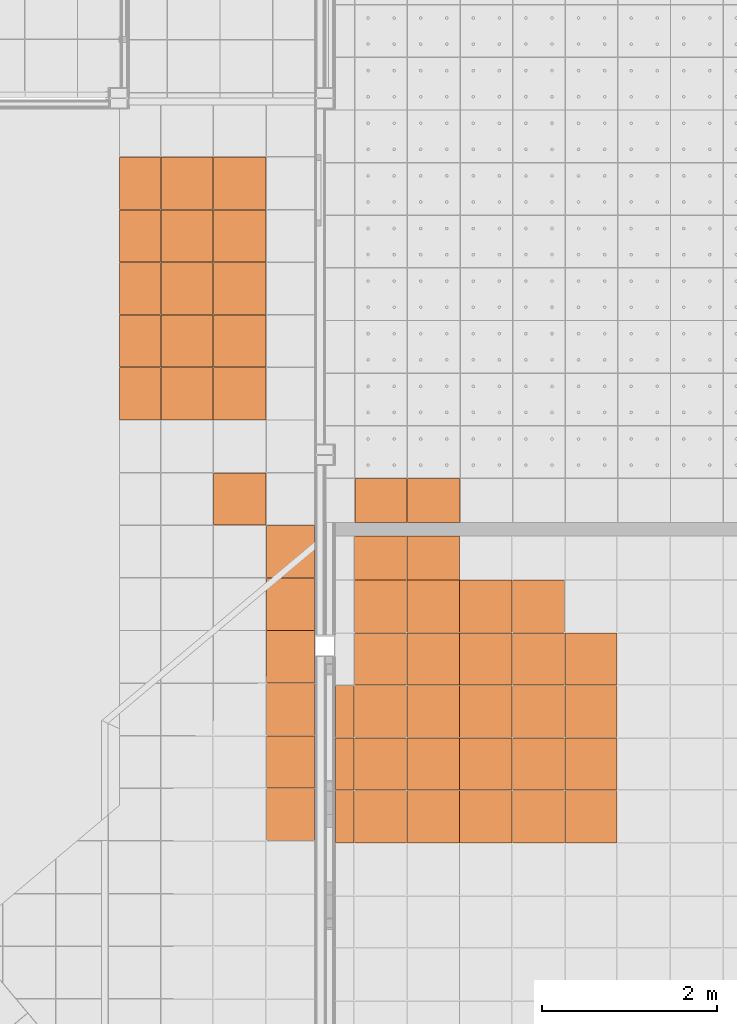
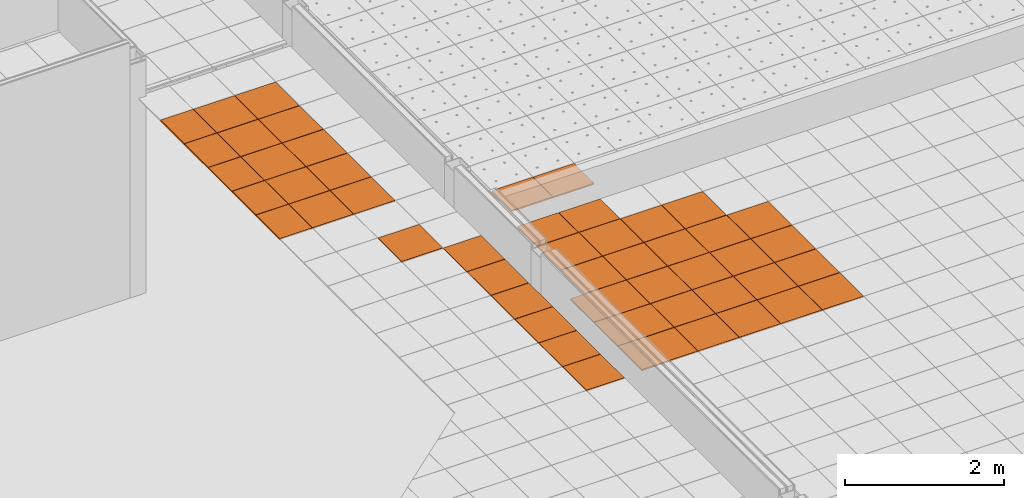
# One storey, part 218 of 338: 53 proxies, 3 elements without a shape of their own.
"""IFC2X3 building model written with IfcOpenShell, lengths in millimetres."""

from ifc_helpers import new_model, entity, si_unit, converted_unit, derived_unit, money_unit, direction, frame, origin_with_axes, place, context, subcontext, project, spatial, faceted_brep, source, transform, mapped, material, type_object, type_shapes, element, aggregate, save


model = new_model("IFC2X3")

# Units and contexts
model_context = context("Model", 3, precision=0.01, world=origin_with_axes(), true_north=direction((0.0, 1.0)))
plan_context = context("Plan", 3, precision=0.01, world=origin_with_axes(), true_north=direction((0.0, 1.0)))
body_context = subcontext(model_context, "Body", "Model", "MODEL_VIEW")
ifc_project = project(units=[si_unit("LENGTHUNIT", "METRE", prefix="MILLI"), si_unit("AREAUNIT", "SQUARE_METRE"), si_unit("VOLUMEUNIT", "CUBIC_METRE"), converted_unit("PLANEANGLEUNIT", "DEGREE", entity("IfcPlaneAngleMeasure", 0.0174532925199), si_unit("PLANEANGLEUNIT", "RADIAN"), dimensions=[0, 0, 0, 0, 0, 0, 0]), money_unit("EUR"), converted_unit("TIMEUNIT", "Year", entity("IfcTimeMeasure", 31556926.0), si_unit("TIMEUNIT", "SECOND"), dimensions=[0, 0, 1, 0, 0, 0, 0]), si_unit("MASSUNIT", "GRAM", prefix="KILO"), si_unit("THERMODYNAMICTEMPERATUREUNIT", "DEGREE_CELSIUS"), si_unit("LUMINOUSINTENSITYUNIT", "LUMEN"), si_unit("ENERGYUNIT", "JOULE", prefix="MEGA"), derived_unit("THERMALCONDUCTANCEUNIT", [(si_unit("POWERUNIT", "WATT"), 1), (si_unit("LENGTHUNIT", "METRE"), -1), (si_unit("THERMODYNAMICTEMPERATUREUNIT", "KELVIN"), -1)]), derived_unit("SPECIFICHEATCAPACITYUNIT", [(si_unit("ENERGYUNIT", "JOULE"), 1), (si_unit("MASSUNIT", "GRAM", prefix="KILO"), -1), (si_unit("THERMODYNAMICTEMPERATUREUNIT", "KELVIN"), -1)]), derived_unit("MASSDENSITYUNIT", [(si_unit("MASSUNIT", "GRAM", prefix="KILO"), 1), (si_unit("VOLUMEUNIT", "CUBIC_METRE"), -1)])], contexts=[model_context, plan_context])

# Site, building, storey
site_placement = place(None, origin_with_axes())
site = spatial("IfcSite", under=ifc_project, at=site_placement, Name="Fortuinstraat Woensdrecht", CompositionType="ELEMENT")
building_placement = place(site_placement, origin_with_axes())
building = spatial("IfcBuilding", under=site, at=building_placement, Name="IKC Fortuna", CompositionType="ELEMENT")
storey_placement = place(building_placement, origin_with_axes())
storey = spatial("IfcBuildingStorey", under=building, at=storey_placement, Name="00 begane grond", CompositionType="ELEMENT", Elevation=0.0)

# Covering, proxies
covering_type = type_object("IfcCoveringType", Name="Curtain Wall Type", PredefinedType="CEILING")
covering_1_placement = place(storey_placement, frame((34484.9342671, 3789.29664615, 3065.0), z_axis=(0.0, 0.0, 1.0), x_axis=(1.0, 0.0, 0.0)))
covering_1 = element("IfcCovering", 1, at=covering_1_placement, inside=storey, type_object=covering_type, Name="45_Plafondafwerking_P02 gec", PredefinedType="CEILING")
ifc_material = material(Name="Gipsplaat")
building_element_proxy_type_1 = type_object("IfcBuildingElementProxyType", Name="Distinct Panel 600 x 600 x 20", PredefinedType="NOTDEFINED")
shared_shape_1 = source(origin_with_axes(), body_context, "Body", "Brep", [
    faceted_brep([(-2.49999999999, 2.5, -10.0), (-2.49999999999, 2.5, 10.0), (-597.5, 2.49999999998, 10.0), (-597.5, 2.49999999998, -10.0), (-2.50000000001, 597.5, -10.0), (-2.50000000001, 597.5, 10.0), (-597.5, 597.5, 10.0), (-597.5, 597.5, -10.0)], [[[0, 1, 2, 3]], [[4, 5, 1, 0]], [[1, 5, 6, 2]], [[3, 2, 6, 7]], [[0, 3, 7, 4]], [[7, 6, 5, 4]]]),
])
proxy_1_placement = place(covering_1_placement, frame((-5834.49272604, 5999.99997773, 0.0), z_axis=(0.0, 0.0, 1.0), x_axis=(1.0, 0.0, 0.0)))
proxy_1 = element("IfcBuildingElementProxy", 2, at=proxy_1_placement, type_object=building_element_proxy_type_1, material=ifc_material, Name="__Panel-D", context=body_context, shape_type="MappedRepresentation", body=[
    mapped(shared_shape_1, transform((-300.0, 300.0, 0.0), x_axis=(-1.0, 0.0, 0.0), y_axis=(0.0, -1.0, 0.0), z_axis=(0.0, 0.0, 1.0))),
])
proxy_2_placement = place(covering_1_placement, frame((-8234.49272604, 6599.99997773, 0.0), z_axis=(0.0, 0.0, 1.0), x_axis=(1.0, 0.0, 0.0)))
proxy_2 = element("IfcBuildingElementProxy", 3, at=proxy_2_placement, type_object=building_element_proxy_type_1, material=ifc_material, Name="__Panel-D", context=body_context, shape_type="MappedRepresentation", body=[
    mapped(shared_shape_1, transform((-300.0, 300.0, 0.0), x_axis=(-1.0, 0.0, 0.0), y_axis=(0.0, -1.0, 0.0), z_axis=(0.0, 0.0, 1.0))),
])
proxy_3_placement = place(covering_1_placement, frame((-7634.49272604, 6599.99997773, 0.0), z_axis=(0.0, 0.0, 1.0), x_axis=(1.0, 0.0, 0.0)))
proxy_3 = element("IfcBuildingElementProxy", 4, at=proxy_3_placement, type_object=building_element_proxy_type_1, material=ifc_material, Name="__Panel-D", context=body_context, shape_type="MappedRepresentation", body=[
    mapped(shared_shape_1, transform((-300.0, 300.0, 0.0), x_axis=(-1.0, 0.0, 0.0), y_axis=(0.0, -1.0, 0.0), z_axis=(0.0, 0.0, 1.0))),
])
proxy_4_placement = place(covering_1_placement, frame((-7034.49272604, 6599.99997773, 0.0), z_axis=(0.0, 0.0, 1.0), x_axis=(1.0, 0.0, 0.0)))
proxy_4 = element("IfcBuildingElementProxy", 5, at=proxy_4_placement, type_object=building_element_proxy_type_1, material=ifc_material, Name="__Panel-D", context=body_context, shape_type="MappedRepresentation", body=[
    mapped(shared_shape_1, transform((-300.0, 300.0, 0.0), x_axis=(-1.0, 0.0, 0.0), y_axis=(0.0, -1.0, 0.0), z_axis=(0.0, 0.0, 1.0))),
])
proxy_5_placement = place(covering_1_placement, frame((-6434.49272604, 6599.99997773, 0.0), z_axis=(0.0, 0.0, 1.0), x_axis=(1.0, 0.0, 0.0)))
proxy_5 = element("IfcBuildingElementProxy", 6, at=proxy_5_placement, type_object=building_element_proxy_type_1, material=ifc_material, Name="__Panel-D", context=body_context, shape_type="MappedRepresentation", body=[
    mapped(shared_shape_1, transform((-300.0, 300.0, 0.0), x_axis=(-1.0, 0.0, 0.0), y_axis=(0.0, -1.0, 0.0), z_axis=(0.0, 0.0, 1.0))),
])
proxy_6_placement = place(covering_1_placement, frame((-7034.49272604, 5999.99997773, 0.0), z_axis=(0.0, 0.0, 1.0), x_axis=(1.0, 0.0, 0.0)))
proxy_6 = element("IfcBuildingElementProxy", 7, at=proxy_6_placement, type_object=building_element_proxy_type_1, material=ifc_material, Name="__Panel-D", context=body_context, shape_type="MappedRepresentation", body=[
    mapped(shared_shape_1, transform((-300.0, 300.0, 0.0), x_axis=(-1.0, 0.0, 0.0), y_axis=(0.0, -1.0, 0.0), z_axis=(0.0, 0.0, 1.0))),
])
proxy_7_placement = place(covering_1_placement, frame((-7634.49272604, 5999.99997773, 0.0), z_axis=(0.0, 0.0, 1.0), x_axis=(1.0, 0.0, 0.0)))
proxy_7 = element("IfcBuildingElementProxy", 8, at=proxy_7_placement, type_object=building_element_proxy_type_1, material=ifc_material, Name="__Panel-D", context=body_context, shape_type="MappedRepresentation", body=[
    mapped(shared_shape_1, transform((-300.0, 300.0, 0.0), x_axis=(-1.0, 0.0, 0.0), y_axis=(0.0, -1.0, 0.0), z_axis=(0.0, 0.0, 1.0))),
])
proxy_8_placement = place(covering_1_placement, frame((-8234.49272604, 5999.99997773, 0.0), z_axis=(0.0, 0.0, 1.0), x_axis=(1.0, 0.0, 0.0)))
proxy_8 = element("IfcBuildingElementProxy", 9, at=proxy_8_placement, type_object=building_element_proxy_type_1, material=ifc_material, Name="__Panel-D", context=body_context, shape_type="MappedRepresentation", body=[
    mapped(shared_shape_1, transform((-300.0, 300.0, 0.0), x_axis=(-1.0, 0.0, 0.0), y_axis=(0.0, -1.0, 0.0), z_axis=(0.0, 0.0, 1.0))),
])
proxy_9_placement = place(covering_1_placement, frame((-8234.49272604, 5399.99998887, 0.0), z_axis=(0.0, 0.0, 1.0), x_axis=(1.0, 0.0, 0.0)))
proxy_9 = element("IfcBuildingElementProxy", 10, at=proxy_9_placement, type_object=building_element_proxy_type_1, material=ifc_material, Name="__Panel-D", context=body_context, shape_type="MappedRepresentation", body=[
    mapped(shared_shape_1, transform((-300.0, 299.999988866, 0.0), x_axis=(-1.0, 0.0, 0.0), y_axis=(0.0, -1.0, 0.0), z_axis=(0.0, 0.0, 1.0))),
])
proxy_10_placement = place(covering_1_placement, frame((-7634.49272604, 5399.99998887, 0.0), z_axis=(0.0, 0.0, 1.0), x_axis=(1.0, 0.0, 0.0)))
proxy_10 = element("IfcBuildingElementProxy", 11, at=proxy_10_placement, type_object=building_element_proxy_type_1, material=ifc_material, Name="__Panel-D", context=body_context, shape_type="MappedRepresentation", body=[
    mapped(shared_shape_1, transform((-300.0, 299.999988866, 0.0), x_axis=(-1.0, 0.0, 0.0), y_axis=(0.0, -1.0, 0.0), z_axis=(0.0, 0.0, 1.0))),
])
proxy_11_placement = place(covering_1_placement, frame((-7034.49272604, 5399.99998887, 0.0), z_axis=(0.0, 0.0, 1.0), x_axis=(1.0, 0.0, 0.0)))
proxy_11 = element("IfcBuildingElementProxy", 12, at=proxy_11_placement, type_object=building_element_proxy_type_1, material=ifc_material, Name="__Panel-D", context=body_context, shape_type="MappedRepresentation", body=[
    mapped(shared_shape_1, transform((-300.0, 299.999988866, 0.0), x_axis=(-1.0, 0.0, 0.0), y_axis=(0.0, -1.0, 0.0), z_axis=(0.0, 0.0, 1.0))),
])
proxy_12_placement = place(covering_1_placement, frame((-6434.49272604, 5399.99998887, 0.0), z_axis=(0.0, 0.0, 1.0), x_axis=(1.0, 0.0, 0.0)))
proxy_12 = element("IfcBuildingElementProxy", 13, at=proxy_12_placement, type_object=building_element_proxy_type_1, material=ifc_material, Name="__Panel-D", context=body_context, shape_type="MappedRepresentation", body=[
    mapped(shared_shape_1, transform((-300.0, 299.999988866, 0.0), x_axis=(-1.0, 0.0, 0.0), y_axis=(0.0, -1.0, 0.0), z_axis=(0.0, 0.0, 1.0))),
])
proxy_13_placement = place(covering_1_placement, frame((-5834.49272604, 5399.99998887, 0.0), z_axis=(0.0, 0.0, 1.0), x_axis=(1.0, 0.0, 0.0)))
proxy_13 = element("IfcBuildingElementProxy", 14, at=proxy_13_placement, type_object=building_element_proxy_type_1, material=ifc_material, Name="__Panel-D", context=body_context, shape_type="MappedRepresentation", body=[
    mapped(shared_shape_1, transform((-300.0, 299.999988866, 0.0), x_axis=(-1.0, 0.0, 0.0), y_axis=(0.0, -1.0, 0.0), z_axis=(0.0, 0.0, 1.0))),
])
proxy_14_placement = place(covering_1_placement, frame((-5834.49272604, 4800.0, 0.0), z_axis=(0.0, 0.0, 1.0), x_axis=(1.0, 0.0, 0.0)))
proxy_14 = element("IfcBuildingElementProxy", 15, at=proxy_14_placement, type_object=building_element_proxy_type_1, material=ifc_material, Name="__Panel-D", context=body_context, shape_type="MappedRepresentation", body=[
    mapped(shared_shape_1, transform((-300.0, 300.0, 0.0), x_axis=(-1.0, 0.0, 0.0), y_axis=(0.0, -1.0, 0.0), z_axis=(0.0, 0.0, 1.0))),
])
proxy_15_placement = place(covering_1_placement, frame((-6434.49272604, 4800.0, 0.0), z_axis=(0.0, 0.0, 1.0), x_axis=(1.0, 0.0, 0.0)))
proxy_15 = element("IfcBuildingElementProxy", 16, at=proxy_15_placement, type_object=building_element_proxy_type_1, material=ifc_material, Name="__Panel-D", context=body_context, shape_type="MappedRepresentation", body=[
    mapped(shared_shape_1, transform((-300.0, 300.0, 0.0), x_axis=(-1.0, 0.0, 0.0), y_axis=(0.0, -1.0, 0.0), z_axis=(0.0, 0.0, 1.0))),
])
proxy_16_placement = place(covering_1_placement, frame((-7034.49272604, 4800.0, 0.0), z_axis=(0.0, 0.0, 1.0), x_axis=(1.0, 0.0, 0.0)))
proxy_16 = element("IfcBuildingElementProxy", 17, at=proxy_16_placement, type_object=building_element_proxy_type_1, material=ifc_material, Name="__Panel-D", context=body_context, shape_type="MappedRepresentation", body=[
    mapped(shared_shape_1, transform((-300.0, 300.0, 0.0), x_axis=(-1.0, 0.0, 0.0), y_axis=(0.0, -1.0, 0.0), z_axis=(0.0, 0.0, 1.0))),
])
proxy_17_placement = place(covering_1_placement, frame((-7634.49272604, 4800.0, 0.0), z_axis=(0.0, 0.0, 1.0), x_axis=(1.0, 0.0, 0.0)))
proxy_17 = element("IfcBuildingElementProxy", 18, at=proxy_17_placement, type_object=building_element_proxy_type_1, material=ifc_material, Name="__Panel-D", context=body_context, shape_type="MappedRepresentation", body=[
    mapped(shared_shape_1, transform((-300.0, 300.0, 0.0), x_axis=(-1.0, 0.0, 0.0), y_axis=(0.0, -1.0, 0.0), z_axis=(0.0, 0.0, 1.0))),
])
proxy_18_placement = place(covering_1_placement, frame((-8234.49272604, 4800.0, 0.0), z_axis=(0.0, 0.0, 1.0), x_axis=(1.0, 0.0, 0.0)))
proxy_18 = element("IfcBuildingElementProxy", 19, at=proxy_18_placement, type_object=building_element_proxy_type_1, material=ifc_material, Name="__Panel-D", context=body_context, shape_type="MappedRepresentation", body=[
    mapped(shared_shape_1, transform((-300.0, 300.0, 0.0), x_axis=(-1.0, 0.0, 0.0), y_axis=(0.0, -1.0, 0.0), z_axis=(0.0, 0.0, 1.0))),
])
proxy_19_placement = place(covering_1_placement, frame((-8234.49272604, 4200.0, 0.0), z_axis=(0.0, 0.0, 1.0), x_axis=(1.0, 0.0, 0.0)))
proxy_19 = element("IfcBuildingElementProxy", 20, at=proxy_19_placement, type_object=building_element_proxy_type_1, material=ifc_material, Name="__Panel-D", context=body_context, shape_type="MappedRepresentation", body=[
    mapped(shared_shape_1, transform((-300.0, 300.0, 0.0), x_axis=(-1.0, 0.0, 0.0), y_axis=(0.0, -1.0, 0.0), z_axis=(0.0, 0.0, 1.0))),
])
proxy_20_placement = place(covering_1_placement, frame((-7634.49272604, 4200.0, 0.0), z_axis=(0.0, 0.0, 1.0), x_axis=(1.0, 0.0, 0.0)))
proxy_20 = element("IfcBuildingElementProxy", 21, at=proxy_20_placement, type_object=building_element_proxy_type_1, material=ifc_material, Name="__Panel-D", context=body_context, shape_type="MappedRepresentation", body=[
    mapped(shared_shape_1, transform((-300.0, 300.0, 0.0), x_axis=(-1.0, 0.0, 0.0), y_axis=(0.0, -1.0, 0.0), z_axis=(0.0, 0.0, 1.0))),
])
proxy_21_placement = place(covering_1_placement, frame((-7034.49272604, 4200.0, 0.0), z_axis=(0.0, 0.0, 1.0), x_axis=(1.0, 0.0, 0.0)))
proxy_21 = element("IfcBuildingElementProxy", 22, at=proxy_21_placement, type_object=building_element_proxy_type_1, material=ifc_material, Name="__Panel-D", context=body_context, shape_type="MappedRepresentation", body=[
    mapped(shared_shape_1, transform((-300.0, 300.0, 0.0), x_axis=(-1.0, 0.0, 0.0), y_axis=(0.0, -1.0, 0.0), z_axis=(0.0, 0.0, 1.0))),
])
proxy_22_placement = place(covering_1_placement, frame((-6434.49272604, 4200.0, 0.0), z_axis=(0.0, 0.0, 1.0), x_axis=(1.0, 0.0, 0.0)))
proxy_22 = element("IfcBuildingElementProxy", 23, at=proxy_22_placement, type_object=building_element_proxy_type_1, material=ifc_material, Name="__Panel-D", context=body_context, shape_type="MappedRepresentation", body=[
    mapped(shared_shape_1, transform((-300.0, 300.0, 0.0), x_axis=(-1.0, 0.0, 0.0), y_axis=(0.0, -1.0, 0.0), z_axis=(0.0, 0.0, 1.0))),
])
proxy_23_placement = place(covering_1_placement, frame((-5834.49272604, 4200.0, 0.0), z_axis=(0.0, 0.0, 1.0), x_axis=(1.0, 0.0, 0.0)))
proxy_23 = element("IfcBuildingElementProxy", 24, at=proxy_23_placement, type_object=building_element_proxy_type_1, material=ifc_material, Name="__Panel-D", context=body_context, shape_type="MappedRepresentation", body=[
    mapped(shared_shape_1, transform((-300.0, 300.0, 0.0), x_axis=(-1.0, 0.0, 0.0), y_axis=(0.0, -1.0, 0.0), z_axis=(0.0, 0.0, 1.0))),
])

covering_2_placement = place(storey_placement, frame((23508.1808374, 14013.4616156, 3010.0), z_axis=(0.0, 0.0, 1.0), x_axis=(1.0, 0.0, 0.0)))
covering_2 = element("IfcCovering", 25, at=covering_2_placement, inside=storey, type_object=covering_type, Name="45_Plafondafwerking_P04", PredefinedType="CEILING")
proxy_24_placement = place(covering_2_placement, frame((1136.74576449, 1200.0, 1.03916875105e-10), z_axis=(0.0, 0.0, 1.0), x_axis=(1.0, 0.0, 0.0)))
proxy_24 = element("IfcBuildingElementProxy", 26, at=proxy_24_placement, type_object=building_element_proxy_type_1, material=ifc_material, Name="__Panel-D", context=body_context, shape_type="MappedRepresentation", body=[
    mapped(shared_shape_1, transform((-300.0, 300.0, 0.0), x_axis=(-1.0, 0.0, 0.0), y_axis=(0.0, -1.0, 0.0), z_axis=(0.0, 0.0, 1.0))),
])
proxy_25_placement = place(covering_2_placement, frame((536.745764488, 0.0, 0.0), z_axis=(0.0, 0.0, 1.0), x_axis=(1.0, 0.0, 0.0)))
proxy_25 = element("IfcBuildingElementProxy", 27, at=proxy_25_placement, type_object=building_element_proxy_type_1, material=ifc_material, Name="__Panel-D", context=body_context, shape_type="MappedRepresentation", body=[
    mapped(shared_shape_1, transform((-300.0, 300.0, 0.0), x_axis=(-1.0, 0.0, 0.0), y_axis=(0.0, -1.0, 0.0), z_axis=(0.0, 0.0, 1.0))),
])
proxy_26_placement = place(covering_2_placement, frame((1136.74576449, -600.0, 1.03916875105e-10), z_axis=(0.0, 0.0, 1.0), x_axis=(1.0, 0.0, 0.0)))
proxy_26 = element("IfcBuildingElementProxy", 28, at=proxy_26_placement, type_object=building_element_proxy_type_1, material=ifc_material, Name="__Panel-D", context=body_context, shape_type="MappedRepresentation", body=[
    mapped(shared_shape_1, transform((-300.0, 300.0, 0.0), x_axis=(-1.0, 0.0, 0.0), y_axis=(0.0, -1.0, 0.0), z_axis=(0.0, 0.0, 1.0))),
])
proxy_27_placement = place(covering_2_placement, frame((1136.74576449, 600.0, 1.03916875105e-10), z_axis=(0.0, 0.0, 1.0), x_axis=(1.0, 0.0, 0.0)))
proxy_27 = element("IfcBuildingElementProxy", 29, at=proxy_27_placement, type_object=building_element_proxy_type_1, material=ifc_material, Name="__Panel-D", context=body_context, shape_type="MappedRepresentation", body=[
    mapped(shared_shape_1, transform((-300.0, 300.0, 0.0), x_axis=(-1.0, 0.0, 0.0), y_axis=(0.0, -1.0, 0.0), z_axis=(0.0, 0.0, 1.0))),
])
proxy_28_placement = place(covering_2_placement, frame((536.745764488, -1200.0, 0.0), z_axis=(0.0, 0.0, 1.0), x_axis=(1.0, 0.0, 0.0)))
proxy_28 = element("IfcBuildingElementProxy", 30, at=proxy_28_placement, type_object=building_element_proxy_type_1, material=ifc_material, Name="__Panel-D", context=body_context, shape_type="MappedRepresentation", body=[
    mapped(shared_shape_1, transform((-300.0, 300.0, 0.0), x_axis=(-1.0, 0.0, 0.0), y_axis=(0.0, -1.0, 0.0), z_axis=(0.0, 0.0, 1.0))),
])
proxy_29_placement = place(covering_2_placement, frame((1136.74576449, 0.0, 1.03916875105e-10), z_axis=(0.0, 0.0, 1.0), x_axis=(1.0, 0.0, 0.0)))
proxy_29 = element("IfcBuildingElementProxy", 31, at=proxy_29_placement, type_object=building_element_proxy_type_1, material=ifc_material, Name="__Panel-D", context=body_context, shape_type="MappedRepresentation", body=[
    mapped(shared_shape_1, transform((-300.0, 300.0, 0.0), x_axis=(-1.0, 0.0, 0.0), y_axis=(0.0, -1.0, 0.0), z_axis=(0.0, 0.0, 1.0))),
])
proxy_30_placement = place(covering_2_placement, frame((536.745764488, 1200.0, 0.0), z_axis=(0.0, 0.0, 1.0), x_axis=(1.0, 0.0, 0.0)))
proxy_30 = element("IfcBuildingElementProxy", 32, at=proxy_30_placement, type_object=building_element_proxy_type_1, material=ifc_material, Name="__Panel-D", context=body_context, shape_type="MappedRepresentation", body=[
    mapped(shared_shape_1, transform((-300.0, 300.0, 0.0), x_axis=(-1.0, 0.0, 0.0), y_axis=(0.0, -1.0, 0.0), z_axis=(0.0, 0.0, 1.0))),
])
proxy_31_placement = place(covering_2_placement, frame((1136.74576449, -2400.0, 1.03916875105e-10), z_axis=(0.0, 0.0, 1.0), x_axis=(1.0, 0.0, 0.0)))
proxy_31 = element("IfcBuildingElementProxy", 33, at=proxy_31_placement, type_object=building_element_proxy_type_1, material=ifc_material, Name="__Panel-D", context=body_context, shape_type="MappedRepresentation", body=[
    mapped(shared_shape_1, transform((-300.0, 300.0, 0.0), x_axis=(-1.0, 0.0, 0.0), y_axis=(0.0, -1.0, 0.0), z_axis=(0.0, 0.0, 1.0))),
])
shared_shape_2 = source(origin_with_axes(), body_context, "Body", "Brep", [
    faceted_brep([(-2.50000188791, 2.50000518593, -10.0), (-2.50000188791, 2.50000518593, 10.0), (-597.499994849, 2.50000192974, 10.0), (-597.499994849, 2.50000192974, -10.0), (-2.50000514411, 597.499998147, -10.0), (-2.50000514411, 597.499998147, 10.0), (-597.499998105, 597.499994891, 10.0), (-597.499998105, 597.499994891, -10.0)], [[[0, 1, 2, 3]], [[4, 5, 1, 0]], [[1, 5, 6, 2]], [[3, 2, 6, 7]], [[0, 3, 7, 4]], [[7, 6, 5, 4]]]),
])
proxy_32_placement = place(covering_2_placement, frame((536.745764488, -600.0, 0.0), z_axis=(0.0, 0.0, 1.0), x_axis=(1.0, 0.0, 0.0)))
proxy_32 = element("IfcBuildingElementProxy", 34, at=proxy_32_placement, type_object=building_element_proxy_type_1, material=ifc_material, Name="__Panel-D", context=body_context, shape_type="MappedRepresentation", body=[
    mapped(shared_shape_2, transform((-300.0, 300.0, 0.0), x_axis=(-1.0, 0.0, 0.0), y_axis=(0.0, -1.0, 0.0), z_axis=(0.0, 0.0, 1.0))),
])
proxy_33_placement = place(covering_2_placement, frame((536.745764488, 600.0, 0.0), z_axis=(0.0, 0.0, 1.0), x_axis=(1.0, 0.0, 0.0)))
proxy_33 = element("IfcBuildingElementProxy", 35, at=proxy_33_placement, type_object=building_element_proxy_type_1, material=ifc_material, Name="__Panel-D", context=body_context, shape_type="MappedRepresentation", body=[
    mapped(shared_shape_2, transform((-300.0, 300.0, 0.0), x_axis=(-1.0, 0.0, 0.0), y_axis=(0.0, -1.0, 0.0), z_axis=(0.0, 0.0, 1.0))),
])

# Proxy
shared_shape_3 = source(origin_with_axes(), body_context, "Body", "Brep", [
    faceted_brep([(-2.5000069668, 2.4999963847, -10.0), (-2.5000069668, 2.4999963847, 10.0), (-597.499995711, 2.50000275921, 10.0), (-597.499995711, 2.50000275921, -10.0), (-2.50000214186, 597.499967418, -10.0), (-2.50000214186, 597.499967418, 10.0), (-597.499990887, 597.499973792, 10.0), (-597.499990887, 597.499973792, -10.0)], [[[0, 1, 2, 3]], [[4, 5, 1, 0]], [[1, 5, 6, 2]], [[3, 2, 6, 7]], [[0, 3, 7, 4]], [[7, 6, 5, 4]]]),
])
type_shapes(building_element_proxy_type_1, [shared_shape_1, shared_shape_2, shared_shape_3])
proxy_34_placement = place(covering_1_placement, frame((-6434.49272604, 5999.99997773, 0.0), z_axis=(0.0, 0.0, 1.0), x_axis=(1.0, 0.0, 0.0)))
proxy_34 = element("IfcBuildingElementProxy", 36, at=proxy_34_placement, type_object=building_element_proxy_type_1, material=ifc_material, Name="__Panel-D", context=body_context, shape_type="MappedRepresentation", body=[
    mapped(shared_shape_3, transform((-300.0, 300.0, 0.0), x_axis=(-1.0, 0.0, 0.0), y_axis=(0.0, -1.0, 0.0), z_axis=(0.0, 0.0, 1.0))),
])

proxy_35_placement = place(covering_2_placement, frame((1136.74576449, -1200.0, 1.03916875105e-10), z_axis=(0.0, 0.0, 1.0), x_axis=(1.0, 0.0, 0.0)))
proxy_35 = element("IfcBuildingElementProxy", 37, at=proxy_35_placement, type_object=building_element_proxy_type_1, material=ifc_material, Name="__Panel-D", context=body_context, shape_type="MappedRepresentation", body=[
    mapped(shared_shape_3, transform((-300.0, 300.0, 0.0), x_axis=(-1.0, 0.0, 0.0), y_axis=(0.0, -1.0, 0.0), z_axis=(0.0, 0.0, 1.0))),
])

building_element_proxy_type_2 = type_object("IfcBuildingElementProxyType", Name="Distinct Panel 218 x 600 x 20", PredefinedType="NOTDEFINED")
shared_shape_4 = source(origin_with_axes(), body_context, "Body", "Brep", [
    faceted_brep([(-384.993473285, 2.5, -10.0), (-384.993473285, 2.5, 10.0), (-597.5, 2.49999999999, 10.0), (-597.5, 2.49999999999, -10.0), (-384.993473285, 597.5, -10.0), (-384.993473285, 597.5, 10.0), (-597.5, 597.5, 10.0), (-597.5, 597.5, -10.0)], [[[0, 1, 2, 3]], [[4, 5, 1, 0]], [[1, 5, 6, 2]], [[3, 2, 6, 7]], [[0, 3, 7, 4]], [[7, 6, 5, 4]]]),
])
type_shapes(building_element_proxy_type_2, [shared_shape_4])
proxy_36_placement = place(covering_1_placement, frame((-8643.24598723, 4200.0, 0.0), z_axis=(0.0, 0.0, 1.0), x_axis=(1.0, 0.0, 0.0)))
proxy_36 = element("IfcBuildingElementProxy", 38, at=proxy_36_placement, type_object=building_element_proxy_type_2, material=ifc_material, Name="__Panel-D", context=body_context, shape_type="MappedRepresentation", body=[
    mapped(shared_shape_4, transform((-491.246738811, 300.0, 0.0), x_axis=(-1.0, 0.0, 0.0), y_axis=(0.0, -1.0, 0.0), z_axis=(0.0, 0.0, 1.0))),
])

proxy_37_placement = place(covering_1_placement, frame((-8643.24598723, 4800.0, 0.0), z_axis=(0.0, 0.0, 1.0), x_axis=(1.0, 0.0, 0.0)))
proxy_37 = element("IfcBuildingElementProxy", 39, at=proxy_37_placement, type_object=building_element_proxy_type_2, material=ifc_material, Name="__Panel-D", context=body_context, shape_type="MappedRepresentation", body=[
    mapped(shared_shape_4, transform((-491.246738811, 300.0, 0.0), x_axis=(-1.0, 0.0, 0.0), y_axis=(0.0, -1.0, 0.0), z_axis=(0.0, 0.0, 1.0))),
])

proxy_38_placement = place(covering_1_placement, frame((-8643.24598723, 5399.99998887, 0.0), z_axis=(0.0, 0.0, 1.0), x_axis=(1.0, 0.0, 0.0)))
proxy_38 = element("IfcBuildingElementProxy", 40, at=proxy_38_placement, type_object=building_element_proxy_type_2, material=ifc_material, Name="__Panel-D", context=body_context, shape_type="MappedRepresentation", body=[
    mapped(shared_shape_4, transform((-491.246738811, 299.999988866, 0.0), x_axis=(-1.0, 0.0, 0.0), y_axis=(0.0, -1.0, 0.0), z_axis=(0.0, 0.0, 1.0))),
])

building_element_proxy_type_3 = type_object("IfcBuildingElementProxyType", Name="Distinct Panel 600 x 503 x 20", PredefinedType="NOTDEFINED")
shared_shape_5 = source(origin_with_axes(), body_context, "Body", "Brep", [
    faceted_brep([(-2.49999999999, 99.4999854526, -10.0), (-2.49999999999, 99.4999854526, 10.0), (-597.5, 99.4999854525, 10.0), (-597.5, 99.4999854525, -10.0), (-2.50000000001, 597.500003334, -10.0), (-2.50000000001, 597.500003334, 10.0), (-597.5, 597.500003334, 10.0), (-597.5, 597.500003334, -10.0)], [[[0, 1, 2, 3]], [[4, 5, 1, 0]], [[1, 5, 6, 2]], [[3, 2, 6, 7]], [[0, 3, 7, 4]], [[7, 6, 5, 4]]]),
])
type_shapes(building_element_proxy_type_3, [shared_shape_5])
proxy_39_placement = place(covering_1_placement, frame((-8234.49272604, 7151.49999599, 0.0), z_axis=(0.0, 0.0, 1.0), x_axis=(1.0, 0.0, 0.0)))
proxy_39 = element("IfcBuildingElementProxy", 41, at=proxy_39_placement, type_object=building_element_proxy_type_3, material=ifc_material, Name="__Panel-D", context=body_context, shape_type="MappedRepresentation", body=[
    mapped(shared_shape_5, transform((-300.0, 348.500004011, 0.0), x_axis=(-1.0, 0.0, 0.0), y_axis=(0.0, -1.0, 0.0), z_axis=(0.0, 0.0, 1.0))),
])

proxy_40_placement = place(covering_1_placement, frame((-7634.49272604, 7151.49999599, 0.0), z_axis=(0.0, 0.0, 1.0), x_axis=(1.0, 0.0, 0.0)))
proxy_40 = element("IfcBuildingElementProxy", 42, at=proxy_40_placement, type_object=building_element_proxy_type_3, material=ifc_material, Name="__Panel-D", context=body_context, shape_type="MappedRepresentation", body=[
    mapped(shared_shape_5, transform((-300.0, 348.500004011, 0.0), x_axis=(-1.0, 0.0, 0.0), y_axis=(0.0, -1.0, 0.0), z_axis=(0.0, 0.0, 1.0))),
])

aggregate(covering_1, [proxy_1, proxy_2, proxy_3, proxy_4, proxy_5, proxy_34, proxy_6, proxy_7, proxy_8, proxy_9, proxy_10, proxy_11, proxy_12, proxy_13, proxy_14, proxy_15, proxy_16, proxy_17, proxy_18, proxy_19, proxy_20, proxy_21, proxy_22, proxy_23, proxy_36, proxy_37, proxy_38, proxy_39, proxy_40])

# Covering, proxies
covering_3_placement = place(storey_placement, frame((31656.9226967, 15748.5304598, 3210.0), z_axis=(0.0, 0.0, 1.0), x_axis=(1.0, 0.0, 0.0)))
covering_3 = element("IfcCovering", 43, at=covering_3_placement, inside=storey, type_object=covering_type, Name="45_Plafondafwerking_P01", PredefinedType="CEILING")
building_element_proxy_type_4 = type_object("IfcBuildingElementProxyType", Name="600 x 506 x 20", PredefinedType="NOTDEFINED")
shared_shape_6 = source(origin_with_axes(), body_context, "Body", "Brep", [
    faceted_brep([(2.49999999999, 2.49999996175, -10.0), (597.5, 2.49999996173, -10.0), (597.5, 2.49999996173, 10.0), (2.49999999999, 2.49999996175, 10.0), (2.50000000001, 503.733772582, -10.0), (597.5, 503.733772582, -10.0), (597.5, 503.733772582, 10.0), (2.50000000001, 503.733772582, 10.0)], [[[0, 1, 2, 3]], [[0, 4, 5, 1]], [[1, 5, 6, 2]], [[3, 2, 6, 7]], [[4, 0, 3, 7]], [[5, 4, 7, 6]]]),
])
type_shapes(building_element_proxy_type_4, [shared_shape_6])
proxy_41_placement = place(covering_3_placement, frame((-4800.0, -4153.11687963, 2.53574938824e-10), z_axis=(0.0, 0.0, 1.0), x_axis=(1.0, 0.0, 0.0)))
proxy_41 = element("IfcBuildingElementProxy", 44, at=proxy_41_placement, type_object=building_element_proxy_type_4, material=ifc_material, Name="__600x661 Rockfon Krios", context=body_context, shape_type="MappedRepresentation", body=[
    mapped(shared_shape_6, transform((300.0, 253.116879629, 0.0), x_axis=(-1.0, 0.0, 0.0), y_axis=(0.0, -1.0, 0.0), z_axis=(0.0, 0.0, 1.0))),
])
proxy_42_placement = place(covering_3_placement, frame((-5400.0, -4153.11687963, 2.73114864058e-10), z_axis=(0.0, 0.0, 1.0), x_axis=(1.0, 0.0, 0.0)))
proxy_42 = element("IfcBuildingElementProxy", 45, at=proxy_42_placement, type_object=building_element_proxy_type_4, material=ifc_material, Name="__600x722 Rockfon Krios", context=body_context, shape_type="MappedRepresentation", body=[
    mapped(shared_shape_6, transform((300.0, 253.116879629, 0.0), x_axis=(-1.0, 0.0, 0.0), y_axis=(0.0, -1.0, 0.0), z_axis=(0.0, 0.0, 1.0))),
])
aggregate(covering_3, [proxy_41, proxy_42])

# Proxy
building_element_proxy_type_5 = type_object("IfcBuildingElementProxyType", Name="Distinct Panel 473 x 600 x 20", PredefinedType="NOTDEFINED")
shared_shape_7 = source(origin_with_axes(), body_context, "Body", "Brep", [
    faceted_brep([(-129.008466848, 2.5, -10.0), (-129.008466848, 2.5, 10.0), (-597.5, 2.49999999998, 10.0), (-597.5, 2.49999999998, -10.0), (-129.008466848, 597.5, -10.0), (-129.008466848, 597.5, 10.0), (-597.5, 597.5, 10.0), (-597.5, 597.5, -10.0)], [[[0, 1, 2, 3]], [[4, 5, 1, 0]], [[1, 5, 6, 2]], [[3, 2, 6, 7]], [[0, 3, 7, 4]], [[7, 6, 5, 4]]]),
])
proxy_43_placement = place(covering_2_placement, origin_with_axes())
proxy_43 = element("IfcBuildingElementProxy", 46, at=proxy_43_placement, type_object=building_element_proxy_type_5, material=ifc_material, Name="__Panel-D", context=body_context, shape_type="MappedRepresentation", body=[
    mapped(shared_shape_7, transform((-363.254235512, 300.0, 0.0), x_axis=(-1.0, 0.0, 0.0), y_axis=(0.0, -1.0, 0.0), z_axis=(0.0, 0.0, 1.0))),
])

proxy_44_placement = place(covering_2_placement, frame((0.0, 600.0, 0.0), z_axis=(0.0, 0.0, 1.0), x_axis=(1.0, 0.0, 0.0)))
proxy_44 = element("IfcBuildingElementProxy", 47, at=proxy_44_placement, type_object=building_element_proxy_type_5, material=ifc_material, Name="__Panel-D", context=body_context, shape_type="MappedRepresentation", body=[
    mapped(shared_shape_7, transform((-363.254235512, 300.0, 0.0), x_axis=(-1.0, 0.0, 0.0), y_axis=(0.0, -1.0, 0.0), z_axis=(0.0, 0.0, 1.0))),
])

shared_shape_8 = source(origin_with_axes(), body_context, "Body", "Brep", [
    faceted_brep([(-129.008413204, 2.5, -10.0), (-129.008413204, 2.5, 10.0), (-597.5, 2.49999999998, 10.0), (-597.5, 2.49999999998, -10.0), (-129.008466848, 597.5, -10.0), (-129.008466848, 597.5, 10.0), (-597.5, 597.5, 10.0), (-597.5, 597.5, -10.0)], [[[0, 1, 2, 3]], [[4, 5, 1, 0]], [[1, 5, 6, 2]], [[3, 2, 6, 7]], [[0, 3, 7, 4]], [[7, 6, 5, 4]]]),
])
type_shapes(building_element_proxy_type_5, [shared_shape_7, shared_shape_8])
proxy_45_placement = place(covering_2_placement, frame((-1.49529100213e-05, 1200.0, 0.0), z_axis=(0.0, 0.0, 1.0), x_axis=(1.0, 0.0, 0.0)))
proxy_45 = element("IfcBuildingElementProxy", 48, at=proxy_45_placement, type_object=building_element_proxy_type_5, material=ifc_material, Name="__Panel-D", context=body_context, shape_type="MappedRepresentation", body=[
    mapped(shared_shape_8, transform((-363.254220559, 300.0, 0.0), x_axis=(-1.0, 0.0, 0.0), y_axis=(0.0, -1.0, 0.0), z_axis=(0.0, 0.0, 1.0))),
])

proxy_46_placement = place(covering_2_placement, frame((5.30882076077e-05, -1200.0, 0.0), z_axis=(0.0, 0.0, 1.0), x_axis=(1.0, 0.0, 0.0)))
proxy_46 = element("IfcBuildingElementProxy", 49, at=proxy_46_placement, type_object=building_element_proxy_type_5, material=ifc_material, Name="__Panel-D", context=body_context, shape_type="MappedRepresentation", body=[
    mapped(shared_shape_8, transform((-363.2542886, 300.0, 0.0), x_axis=(-1.0, 0.0, 0.0), y_axis=(0.0, -1.0, 0.0), z_axis=(0.0, 0.0, 1.0))),
])

proxy_47_placement = place(covering_2_placement, frame((0.0, -600.0, 0.0), z_axis=(0.0, 0.0, 1.0), x_axis=(1.0, 0.0, 0.0)))
proxy_47 = element("IfcBuildingElementProxy", 50, at=proxy_47_placement, type_object=building_element_proxy_type_5, material=ifc_material, Name="__Panel-D", context=body_context, shape_type="MappedRepresentation", body=[
    mapped(shared_shape_8, transform((-363.254235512, 300.0, 0.0), x_axis=(-1.0, 0.0, 0.0), y_axis=(0.0, -1.0, 0.0), z_axis=(0.0, 0.0, 1.0))),
])

building_element_proxy_type_6 = type_object("IfcBuildingElementProxyType", Name="Distinct Panel 553 x 600 x 20", PredefinedType="NOTDEFINED")
shared_shape_9 = source(origin_with_axes(), body_context, "Body", "Brep", [
    faceted_brep([(-2.49999914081, 2.5, -10.0), (-2.49999914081, 2.5, 10.0), (-550.508421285, 2.49999999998, 10.0), (-550.508421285, 2.49999999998, -10.0), (-2.49999914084, 597.5, -10.0), (-2.49999914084, 597.5, 10.0), (-550.508421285, 597.5, 10.0), (-550.508421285, 597.5, -10.0)], [[[0, 1, 2, 3]], [[4, 5, 1, 0]], [[1, 5, 6, 2]], [[3, 2, 6, 7]], [[0, 3, 7, 4]], [[7, 6, 5, 4]]]),
])
proxy_48_placement = place(covering_2_placement, frame((1713.24997513, -6000.0, 1.22568621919e-10), z_axis=(0.0, 0.0, 1.0), x_axis=(1.0, 0.0, 0.0)))
proxy_48 = element("IfcBuildingElementProxy", 51, at=proxy_48_placement, type_object=building_element_proxy_type_6, material=ifc_material, Name="__Panel-D", context=body_context, shape_type="MappedRepresentation", body=[
    mapped(shared_shape_9, transform((-276.504210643, 300.0, 0.0), x_axis=(-1.0, 0.0, 0.0), y_axis=(0.0, -1.0, 0.0), z_axis=(0.0, 0.0, 1.0))),
])

proxy_49_placement = place(covering_2_placement, frame((1713.24997513, -4800.0, 1.22568621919e-10), z_axis=(0.0, 0.0, 1.0), x_axis=(1.0, 0.0, 0.0)))
proxy_49 = element("IfcBuildingElementProxy", 52, at=proxy_49_placement, type_object=building_element_proxy_type_6, material=ifc_material, Name="__Panel-D", context=body_context, shape_type="MappedRepresentation", body=[
    mapped(shared_shape_9, transform((-276.504210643, 300.0, 0.0), x_axis=(-1.0, 0.0, 0.0), y_axis=(0.0, -1.0, 0.0), z_axis=(0.0, 0.0, 1.0))),
])

proxy_50_placement = place(covering_2_placement, frame((1713.24997513, -5400.0, 1.22568621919e-10), z_axis=(0.0, 0.0, 1.0), x_axis=(1.0, 0.0, 0.0)))
proxy_50 = element("IfcBuildingElementProxy", 53, at=proxy_50_placement, type_object=building_element_proxy_type_6, material=ifc_material, Name="__Panel-D", context=body_context, shape_type="MappedRepresentation", body=[
    mapped(shared_shape_9, transform((-276.504210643, 300.0, 0.0), x_axis=(-1.0, 0.0, 0.0), y_axis=(0.0, -1.0, 0.0), z_axis=(0.0, 0.0, 1.0))),
])

proxy_51_placement = place(covering_2_placement, frame((1713.24997513, -4200.0, 1.22568621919e-10), z_axis=(0.0, 0.0, 1.0), x_axis=(1.0, 0.0, 0.0)))
proxy_51 = element("IfcBuildingElementProxy", 54, at=proxy_51_placement, type_object=building_element_proxy_type_6, material=ifc_material, Name="__Panel-D", context=body_context, shape_type="MappedRepresentation", body=[
    mapped(shared_shape_9, transform((-276.504210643, 300.0, 0.0), x_axis=(-1.0, 0.0, 0.0), y_axis=(0.0, -1.0, 0.0), z_axis=(0.0, 0.0, 1.0))),
])

shared_shape_10 = source(origin_with_axes(), body_context, "Body", "Brep", [
    faceted_brep([(-2.49999914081, 2.5, -10.0), (-2.49999914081, 2.5, 10.0), (-550.508421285, 2.49999999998, 10.0), (-550.508421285, 2.49999999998, -10.0), (-2.49999914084, 597.5, -10.0), (-2.49999914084, 597.5, 10.0), (-550.508421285, 597.5, 10.0), (-550.508421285, 597.5, -10.0)], [[[0, 1, 2, 3]], [[4, 5, 1, 0]], [[1, 5, 6, 2]], [[3, 2, 6, 7]], [[0, 3, 7, 4]], [[7, 6, 5, 4]]]),
])
type_shapes(building_element_proxy_type_6, [shared_shape_9, shared_shape_10])
proxy_52_placement = place(covering_2_placement, frame((1713.24997513, -3600.0, 1.22568621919e-10), z_axis=(0.0, 0.0, 1.0), x_axis=(1.0, 0.0, 0.0)))
proxy_52 = element("IfcBuildingElementProxy", 55, at=proxy_52_placement, type_object=building_element_proxy_type_6, material=ifc_material, Name="__Panel-D", context=body_context, shape_type="MappedRepresentation", body=[
    mapped(shared_shape_10, transform((-276.504210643, 300.0, 0.0), x_axis=(-1.0, 0.0, 0.0), y_axis=(0.0, -1.0, 0.0), z_axis=(0.0, 0.0, 1.0))),
])

proxy_53_placement = place(covering_2_placement, frame((1713.24997513, -3000.0, 1.22568621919e-10), z_axis=(0.0, 0.0, 1.0), x_axis=(1.0, 0.0, 0.0)))
proxy_53 = element("IfcBuildingElementProxy", 56, at=proxy_53_placement, type_object=building_element_proxy_type_6, material=ifc_material, Name="__Panel-D", context=body_context, shape_type="MappedRepresentation", body=[
    mapped(shared_shape_10, transform((-276.504210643, 300.0, 0.0), x_axis=(-1.0, 0.0, 0.0), y_axis=(0.0, -1.0, 0.0), z_axis=(0.0, 0.0, 1.0))),
])

aggregate(covering_2, [proxy_43, proxy_32, proxy_24, proxy_25, proxy_26, proxy_27, proxy_44, proxy_45, proxy_28, proxy_29, proxy_30, proxy_48, proxy_33, proxy_46, proxy_49, proxy_52, proxy_47, proxy_35, proxy_50, proxy_51, proxy_53, proxy_31])

save(model, "model.ifc")
